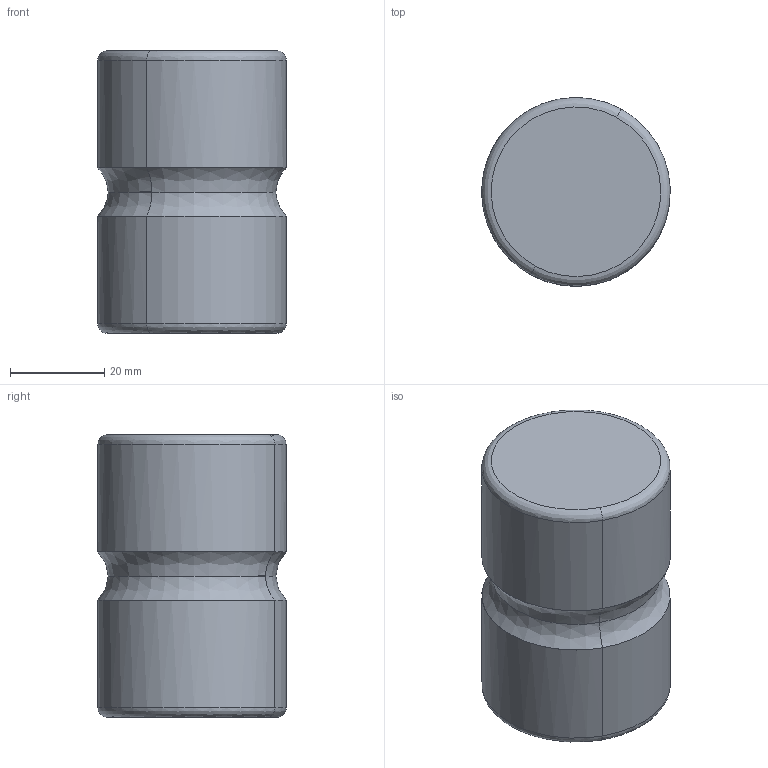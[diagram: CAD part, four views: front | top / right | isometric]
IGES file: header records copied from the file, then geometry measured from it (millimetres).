
Start section: START RECORD GO HERE.
Global section: file name: A519-40.igs; native system: DASSAULT SYSTEMES CATIA V5 R20 - www.3ds.com; preprocessor: CATIA Version 5 Release 20 ; author: Utente; organization: NB04-ASUS; date: 20211130.120850; units: millimetre
Bounding box: 39.99 x 39.99 x 60 mm (x, y, z)
Surface area: 9883.5 mm2 (no closed solid volume)
Topology: 0 solids, 0 shells, 14 faces, 52 edges, 52 vertices
Faces by surface type: revolution 12, plane 2
